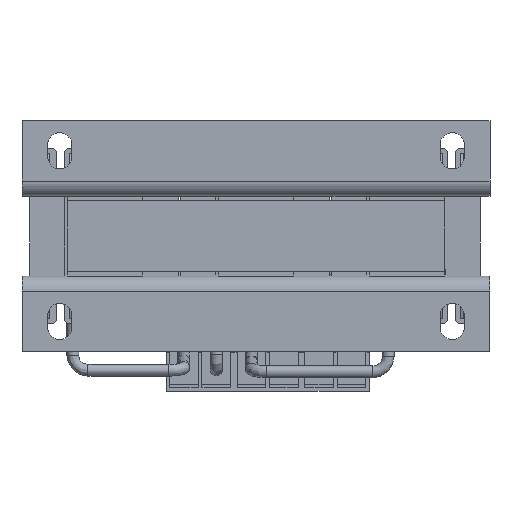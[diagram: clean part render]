
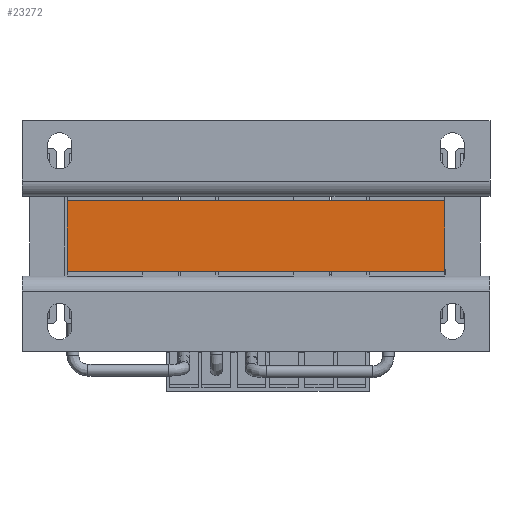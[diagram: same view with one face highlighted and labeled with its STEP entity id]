
A CAD part, front view. The second image highlights one B-rep face of the part: STEP entity #23272.
In plain terms, the highlighted planar face has unit normal (0, -1, 0).
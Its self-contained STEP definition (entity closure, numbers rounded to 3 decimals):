
#23112=CARTESIAN_POINT('',(-15.513,98.9,-147.116));
#23113=VERTEX_POINT('',#23112);
#23120=CARTESIAN_POINT('',(-140.513,98.9,-147.116));
#23121=VERTEX_POINT('',#23120);
#23122=CARTESIAN_POINT('',(-15.513,98.9,-147.116));
#23123=DIRECTION('',(-1.0,0.0,0.0));
#23124=VECTOR('',#23123,125.);
#23125=LINE('',#23122,#23124);
#23126=EDGE_CURVE('',#23113,#23121,#23125,.T.);
#23160=CARTESIAN_POINT('',(-140.513,98.9,-123.616));
#23161=VERTEX_POINT('',#23160);
#23168=CARTESIAN_POINT('',(-15.513,98.9,-123.616));
#23169=VERTEX_POINT('',#23168);
#23170=CARTESIAN_POINT('',(-15.513,98.9,-123.616));
#23171=DIRECTION('',(-1.0,0.0,0.0));
#23172=VECTOR('',#23171,125.);
#23173=LINE('',#23170,#23172);
#23174=EDGE_CURVE('',#23169,#23161,#23173,.T.);
#23251=CARTESIAN_POINT('',(-15.513,98.9,-147.116));
#23252=DIRECTION('',(0.0,-1.0,0.0));
#23253=DIRECTION('',(0.0,0.0,-1.0));
#23254=AXIS2_PLACEMENT_3D('',#23251,#23252,#23253);
#23255=PLANE('',#23254);
#23256=ORIENTED_EDGE('',*,*,#23174,.T.);
#23257=CARTESIAN_POINT('',(-140.513,98.9,-147.116));
#23258=DIRECTION('',(0.0,0.0,1.0));
#23259=VECTOR('',#23258,23.5);
#23260=LINE('',#23257,#23259);
#23261=EDGE_CURVE('',#23121,#23161,#23260,.T.);
#23262=ORIENTED_EDGE('',*,*,#23261,.F.);
#23263=ORIENTED_EDGE('',*,*,#23126,.F.);
#23264=CARTESIAN_POINT('',(-15.513,98.9,-147.116));
#23265=DIRECTION('',(0.0,0.0,1.0));
#23266=VECTOR('',#23265,23.5);
#23267=LINE('',#23264,#23266);
#23268=EDGE_CURVE('',#23113,#23169,#23267,.T.);
#23269=ORIENTED_EDGE('',*,*,#23268,.T.);
#23270=EDGE_LOOP('',(#23256,#23262,#23263,#23269));
#23271=FACE_OUTER_BOUND('',#23270,.T.);
#23272=ADVANCED_FACE('',(#23271),#23255,.T.);
